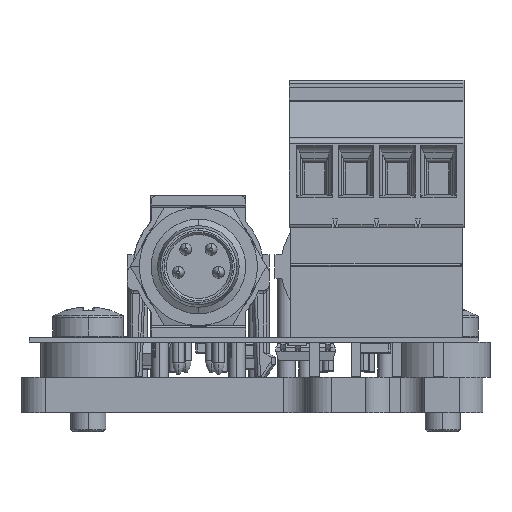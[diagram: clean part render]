
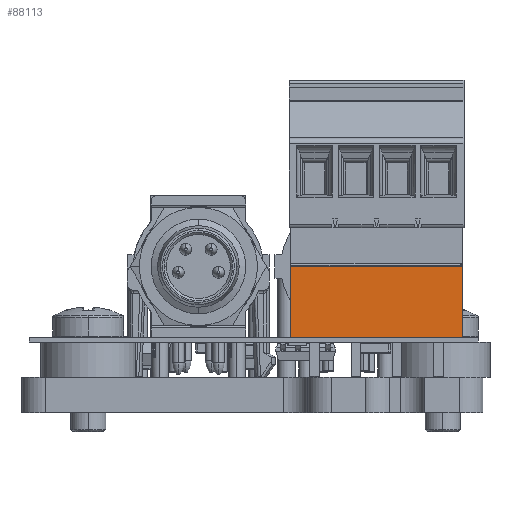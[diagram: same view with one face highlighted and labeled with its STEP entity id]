
A CAD part, left-side view. The second image highlights one B-rep face of the part: STEP entity #88113.
In plain terms, the highlighted planar face has unit normal (-1, 0, 0).
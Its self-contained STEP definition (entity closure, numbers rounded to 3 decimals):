
#371 = VERTEX_POINT ( 'NONE', #25804 ) ;
#8731 = ORIENTED_EDGE ( 'NONE', *, *, #116070, .T. ) ;
#11203 = VERTEX_POINT ( 'NONE', #61464 ) ;
#11933 = CARTESIAN_POINT ( 'NONE',  ( -0.375, 1.35, 0.024 ) ) ;
#13819 = PLANE ( 'NONE',  #99812 ) ;
#16826 = DIRECTION ( 'NONE',  ( 0., 0., -1. ) ) ;
#19182 = CARTESIAN_POINT ( 'NONE',  ( -0.375, 1.35, 0.024 ) ) ;
#20510 = EDGE_CURVE ( 'NONE', #133780, #11203, #82553, .T. ) ;
#25804 = CARTESIAN_POINT ( 'NONE',  ( -0.375, 1.35, 5.974 ) ) ;
#26549 = CARTESIAN_POINT ( 'NONE',  ( -0.375, 13.85, 0.024 ) ) ;
#40060 = EDGE_CURVE ( 'NONE', #44209, #371, #40997, .T. ) ;
#40997 = LINE ( 'NONE', #86451, #119006 ) ;
#44209 = VERTEX_POINT ( 'NONE', #101648 ) ;
#48339 = DIRECTION ( 'NONE',  ( 0., -1., 0. ) ) ;
#48447 = CARTESIAN_POINT ( 'NONE',  ( -0.375, 15.85, 0.024 ) ) ;
#48726 = LINE ( 'NONE', #11933, #137220 ) ;
#50182 = DIRECTION ( 'NONE',  ( 0., 1., 0. ) ) ;
#50688 = LINE ( 'NONE', #48447, #125194 ) ;
#61464 = CARTESIAN_POINT ( 'NONE',  ( -0.375, 15.85, 0.024 ) ) ;
#62743 = ORIENTED_EDGE ( 'NONE', *, *, #40060, .F. ) ;
#69242 = DIRECTION ( 'NONE',  ( 0., 0., 1. ) ) ;
#70650 = DIRECTION ( 'NONE',  ( 1., 0., 0. ) ) ;
#75380 = FACE_OUTER_BOUND ( 'NONE', #114681, .T. ) ;
#81277 = ORIENTED_EDGE ( 'NONE', *, *, #20510, .F. ) ;
#82553 = LINE ( 'NONE', #26549, #109140 ) ;
#84207 = EDGE_CURVE ( 'NONE', #44209, #11203, #50688, .T. ) ;
#86451 = CARTESIAN_POINT ( 'NONE',  ( -0.375, 15.85, 5.974 ) ) ;
#88113 = ADVANCED_FACE ( 'NONE', ( #75380 ), #13819, .F. ) ;
#99812 = AXIS2_PLACEMENT_3D ( 'NONE', #104342, #70650, #48339 ) ;
#101648 = CARTESIAN_POINT ( 'NONE',  ( -0.375, 15.85, 5.974 ) ) ;
#104342 = CARTESIAN_POINT ( 'NONE',  ( -0.375, 15.85, 0.024 ) ) ;
#109140 = VECTOR ( 'NONE', #50182, 1000. ) ;
#110150 = ORIENTED_EDGE ( 'NONE', *, *, #84207, .T. ) ;
#114681 = EDGE_LOOP ( 'NONE', ( #62743, #110150, #81277, #8731 ) ) ;
#116070 = EDGE_CURVE ( 'NONE', #133780, #371, #48726, .T. ) ;
#119006 = VECTOR ( 'NONE', #130470, 1000. ) ;
#125194 = VECTOR ( 'NONE', #16826, 1000. ) ;
#130470 = DIRECTION ( 'NONE',  ( 0., -1., 0. ) ) ;
#133780 = VERTEX_POINT ( 'NONE', #19182 ) ;
#137220 = VECTOR ( 'NONE', #69242, 1000. ) ;
